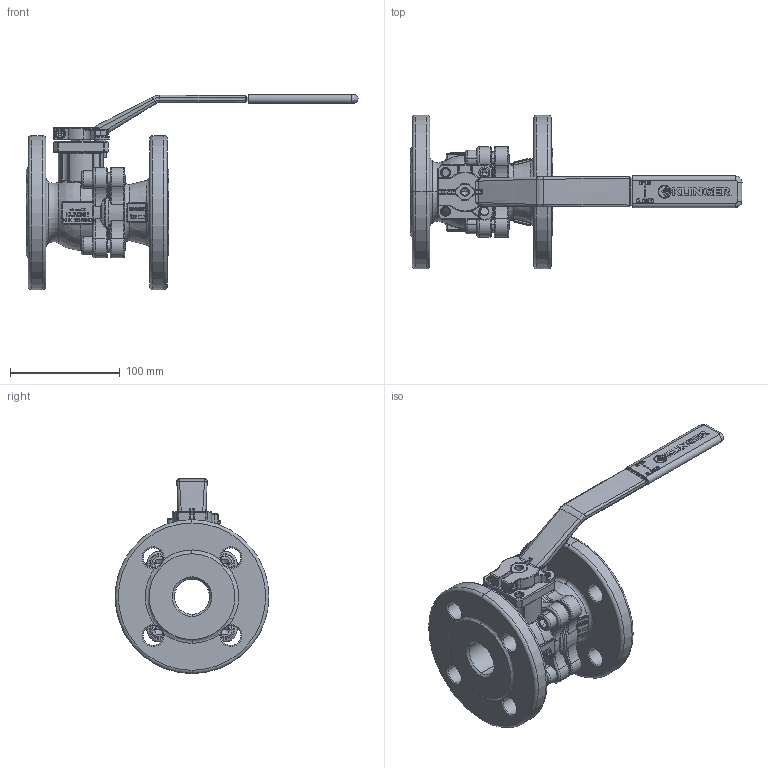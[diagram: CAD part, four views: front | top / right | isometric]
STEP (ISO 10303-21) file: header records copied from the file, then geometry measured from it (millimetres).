
FILE_DESCRIPTION((''),'2;1');
FILE_NAME('KHEFK032VFK032P040PKK','2015-08-07T',('mahrhauserh'),('RAND'),'PRO/ENGINEER BY PARAMETRIC TECHNOLOGY CORPORATION, 2013410','PRO/ENGINEER BY PARAMETRIC TECHNOLOGY CORPORATION, 2013410','');
FILE_SCHEMA(('CONFIG_CONTROL_DESIGN'));
Products named in the file (1): KHEFK032VFK032P040PKK
Bounding box: 302 x 140 x 177.55 mm (x, y, z)
Volume: 812395.5 mm3; surface area: 185951 mm2
Topology: 1 solids, 2 shells, 3176 faces, 8368 edges, 5302 vertices
Faces by surface type: plane 2009, cylinder 430, torus 317, bspline 254, cone 136, sphere 30
Entity records: 122023 total; most frequent: CARTESIAN_POINT 44500, ORIENTED_EDGE 16708, DIRECTION 15313, EDGE_CURVE 8354, VECTOR 5879, LINE 5879, VERTEX_POINT 5302, AXIS2_PLACEMENT_3D 4717
